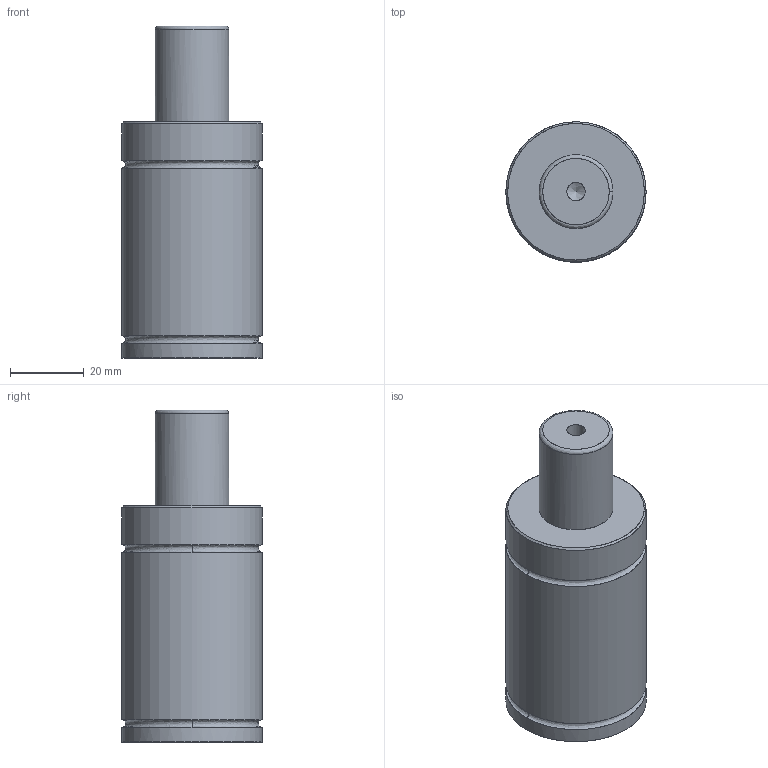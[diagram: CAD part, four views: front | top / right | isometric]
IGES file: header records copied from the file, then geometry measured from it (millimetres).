
Start section: VISI Layer Mapping Iges    VISI  0      LAYER_EMPTY  1      wwww  7      W_PD700  8      S_PD700  10     W_PD1000  11     S_PD1000  13     W_PD2000  14     S_PD2000  16     W_PD3000  17     S_PD3000  19     W_PD4000  20     S_PD4000  22     W_PD7000  23     S_PD7000  28     W_350  29     MS-350  30     MC-350  31     MP-350  32     MB-350  33     MH-350  34     MK-350  35     MPL-350  39     W_500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
Global section: file name: E:\だ錶臢\だ錶臢3D\SYLINDER\PT Series\PT500\PT500\PT500-25.igs; native system: VISI 16.0; preprocessor: 2.0; author: 11; organization: 0; date: 500.; units: mil
Bounding box: 38 x 38 x 90 mm (x, y, z)
Surface area: 12590.3 mm2 (no closed solid volume)
Topology: 0 solids, 0 shells, 19 faces, 221 edges, 196 vertices
Faces by surface type: bspline 19
